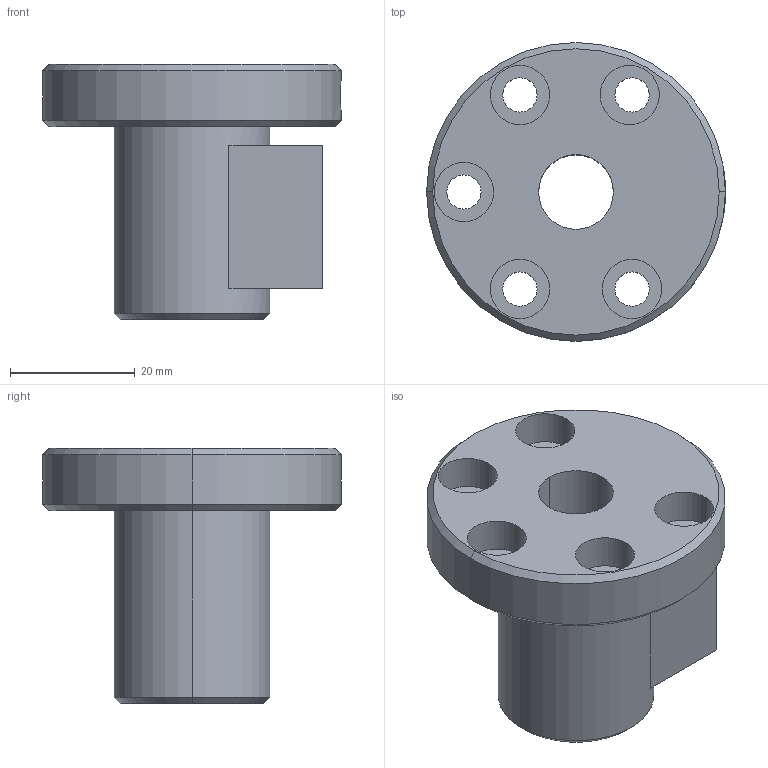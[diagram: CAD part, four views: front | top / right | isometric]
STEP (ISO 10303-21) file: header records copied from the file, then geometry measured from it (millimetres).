
FILE_DESCRIPTION((''),'2;1');
FILE_NAME('A10XFCA1','2018-09-05T13:36:03',('bryant.lin'),(''),'CREO PARAMETRIC BY PTC INC, 2018050','CREO PARAMETRIC BY PTC INC, 2018050','');
FILE_SCHEMA(('CONFIG_CONTROL_DESIGN'));
Length unit declared in the file: millimetre
Products named in the file (1): A10XFCA1
Bounding box: 48 x 48 x 41 mm (x, y, z)
Volume: 31037.6 mm3; surface area: 10813 mm2
Topology: 1 solids, 1 shells, 48 faces, 112 edges, 72 vertices
Faces by surface type: cylinder 28, plane 14, cone 6
Entity records: 1484 total; most frequent: DIRECTION 270, CARTESIAN_POINT 262, ORIENTED_EDGE 224, AXIS2_PLACEMENT_3D 112, EDGE_CURVE 112, VERTEX_POINT 72, EDGE_LOOP 66, CIRCLE 64
